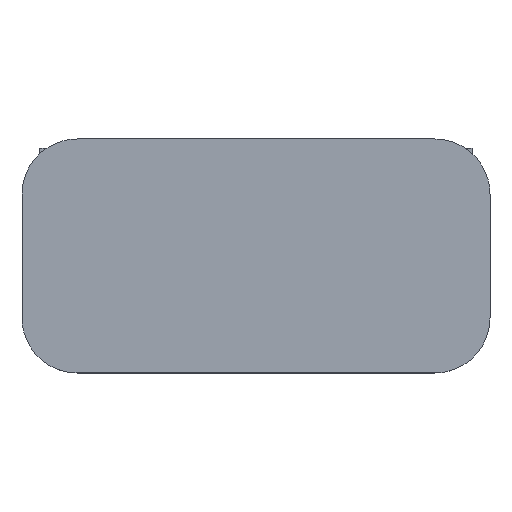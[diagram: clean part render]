
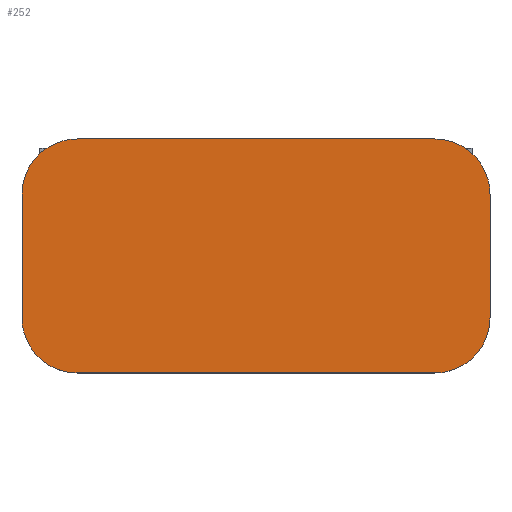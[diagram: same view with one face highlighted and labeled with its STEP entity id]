
A CAD part, top view. The second image highlights one B-rep face of the part: STEP entity #252.
In plain terms, the highlighted planar face has unit normal (0, 0, 1).
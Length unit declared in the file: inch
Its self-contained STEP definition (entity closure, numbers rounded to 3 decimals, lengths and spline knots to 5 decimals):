
#150=EDGE_CURVE('',#402,#403,#404,.T.);
#238=EDGE_CURVE('',#539,#540,#541,.T.);
#240=EDGE_CURVE('',#543,#402,#544,.T.);
#252=ADVANCED_FACE('',(#559),#560,.F.);
#272=EDGE_CURVE('',#540,#504,#588,.T.);
#300=EDGE_CURVE('',#504,#543,#625,.T.);
#320=EDGE_CURVE('',#653,#654,#655,.T.);
#348=EDGE_CURVE('',#403,#653,#686,.T.);
#360=EDGE_CURVE('',#654,#539,#700,.T.);
#402=VERTEX_POINT('',#740);
#403=VERTEX_POINT('',#741);
#404=B_SPLINE_CURVE_WITH_KNOTS('',3,(#742,#743,#744,#745),.UNSPECIFIED.,.F.,.F.,(4,4),(0.0,1.0),.UNSPECIFIED.);
#504=VERTEX_POINT('',#884);
#539=VERTEX_POINT('',#958);
#540=VERTEX_POINT('',#959);
#541=B_SPLINE_CURVE_WITH_KNOTS('',3,(#960,#961,#962,#963),.UNSPECIFIED.,.F.,.F.,(4,4),(0.0,1.0),.UNSPECIFIED.);
#543=VERTEX_POINT('',#966);
#544=LINE('',#967,#968);
#559=FACE_OUTER_BOUND('',#991,.T.);
#560=PLANE('',#992);
#588=LINE('',#1029,#1030);
#625=B_SPLINE_CURVE_WITH_KNOTS('',3,(#1092,#1093,#1094,#1095),.UNSPECIFIED.,.F.,.F.,(4,4),(0.0,1.0),.UNSPECIFIED.);
#653=VERTEX_POINT('',#1137);
#654=VERTEX_POINT('',#1138);
#655=B_SPLINE_CURVE_WITH_KNOTS('',3,(#1139,#1140,#1141,#1142),.UNSPECIFIED.,.F.,.F.,(4,4),(0.0,1.0),.UNSPECIFIED.);
#686=LINE('',#1194,#1195);
#700=LINE('',#1216,#1217);
#740=CARTESIAN_POINT('',(0.,0.0,-0.075));
#741=CARTESIAN_POINT('',(-0.19124,0.19124,-0.075));
#742=CARTESIAN_POINT('',(0.,0.0,-0.075));
#743=CARTESIAN_POINT('',(-0.10562,0.0,-0.075));
#744=CARTESIAN_POINT('',(-0.19124,0.08564,-0.075));
#745=CARTESIAN_POINT('',(-0.19124,0.19124,-0.075));
#884=CARTESIAN_POINT('',(1.4337,0.19124,-0.075));
#958=CARTESIAN_POINT('',(1.24245,0.81244,-0.075));
#959=CARTESIAN_POINT('',(1.4337,0.62119,-0.075));
#960=CARTESIAN_POINT('',(1.24245,0.81244,-0.075));
#961=CARTESIAN_POINT('',(1.34807,0.81244,-0.075));
#962=CARTESIAN_POINT('',(1.4337,0.72682,-0.075));
#963=CARTESIAN_POINT('',(1.4337,0.62119,-0.075));
#966=CARTESIAN_POINT('',(1.24245,0.0,-0.075));
#967=CARTESIAN_POINT('',(1.24245,0.0,-0.075));
#968=VECTOR('',#1403,1.0);
#991=EDGE_LOOP('',(#1417,#1418,#1419,#1420,#1421,#1422,#1423,#1424));
#992=AXIS2_PLACEMENT_3D('',#1425,#1426,#1427);
#1029=CARTESIAN_POINT('',(1.4337,0.62119,-0.075));
#1030=VECTOR('',#1480,1.0);
#1092=CARTESIAN_POINT('',(1.4337,0.19124,-0.075));
#1093=CARTESIAN_POINT('',(1.4337,0.08564,-0.075));
#1094=CARTESIAN_POINT('',(1.34807,0.0,-0.075));
#1095=CARTESIAN_POINT('',(1.24245,0.0,-0.075));
#1137=CARTESIAN_POINT('',(-0.19124,0.62119,-0.075));
#1138=CARTESIAN_POINT('',(0.,0.81244,-0.075));
#1139=CARTESIAN_POINT('',(-0.19124,0.62119,-0.075));
#1140=CARTESIAN_POINT('',(-0.19124,0.72682,-0.075));
#1141=CARTESIAN_POINT('',(-0.10562,0.81244,-0.075));
#1142=CARTESIAN_POINT('',(0.,0.81244,-0.075));
#1194=CARTESIAN_POINT('',(-0.19124,0.19124,-0.075));
#1195=VECTOR('',#1613,1.0);
#1216=CARTESIAN_POINT('',(0.,0.81244,-0.075));
#1217=VECTOR('',#1651,1.0);
#1403=DIRECTION('',(-1.0,0.0,0.0));
#1417=ORIENTED_EDGE('',*,*,#360,.F.);
#1418=ORIENTED_EDGE('',*,*,#320,.F.);
#1419=ORIENTED_EDGE('',*,*,#348,.F.);
#1420=ORIENTED_EDGE('',*,*,#150,.F.);
#1421=ORIENTED_EDGE('',*,*,#240,.F.);
#1422=ORIENTED_EDGE('',*,*,#300,.F.);
#1423=ORIENTED_EDGE('',*,*,#272,.F.);
#1424=ORIENTED_EDGE('',*,*,#238,.F.);
#1425=CARTESIAN_POINT('',(0.62123,0.40622,-0.075));
#1426=DIRECTION('',(0.0,0.0,-1.0));
#1427=DIRECTION('',(-1.0,0.0,0.0));
#1480=DIRECTION('',(0.0,-1.0,0.0));
#1613=DIRECTION('',(0.0,1.0,0.0));
#1651=DIRECTION('',(1.0,0.0,0.0));
